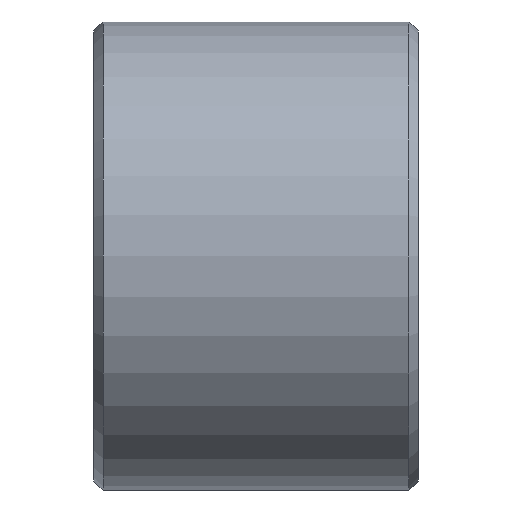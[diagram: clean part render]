
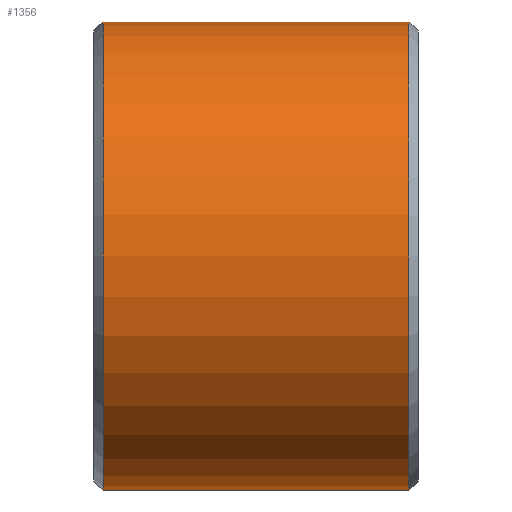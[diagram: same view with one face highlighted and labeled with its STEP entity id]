
A CAD part, front view. The second image highlights one B-rep face of the part: STEP entity #1356.
In plain terms, the highlighted cylindrical face has radius 13 mm (diameter 26 mm), a partial arc.
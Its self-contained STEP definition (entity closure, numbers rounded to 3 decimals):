
#92=DIRECTION('',(1.,0.,0.));
#93=VECTOR('',#92,17.);
#94=CARTESIAN_POINT('',(-8.5,0.,-13.));
#95=LINE('',#94,#93);
#143=CARTESIAN_POINT('',(8.5,0.,0.));
#144=DIRECTION('',(1.,0.,0.));
#145=DIRECTION('',(0.,0.,1.));
#146=AXIS2_PLACEMENT_3D('',#143,#144,#145);
#148=CARTESIAN_POINT('',(-8.5,0.,0.));
#149=DIRECTION('',(-1.,0.,0.));
#150=DIRECTION('',(0.,0.,-1.));
#151=AXIS2_PLACEMENT_3D('',#148,#149,#150);
#153=DIRECTION('',(1.,0.,0.));
#154=VECTOR('',#153,17.);
#155=CARTESIAN_POINT('',(-8.5,0.,
13.));
#156=LINE('',#155,#154);
#1215=CARTESIAN_POINT('',(8.5,0.,13.));
#1216=CARTESIAN_POINT('',(8.5,0.,-13.));
#1217=VERTEX_POINT('',#1215);
#1218=VERTEX_POINT('',#1216);
#1223=CARTESIAN_POINT('',(-8.5,0.,-13.));
#1224=CARTESIAN_POINT('',(-8.5,0.,13.));
#1225=VERTEX_POINT('',#1223);
#1226=VERTEX_POINT('',#1224);
#1345=CARTESIAN_POINT('',(-9.,0.,0.));
#1346=DIRECTION('',(1.,0.,0.));
#1347=DIRECTION('',(0.,0.,-1.));
#1348=AXIS2_PLACEMENT_3D('',#1345,#1346,#1347);
#1349=CYLINDRICAL_SURFACE('',#1348,13.);
#1350=ORIENTED_EDGE('',*,*,#1339,.T.);
#1351=ORIENTED_EDGE('',*,*,#1289,.F.);
#1352=ORIENTED_EDGE('',*,*,#1259,.T.);
#1353=ORIENTED_EDGE('',*,*,#1286,.T.);
#1354=EDGE_LOOP('',(#1350,#1351,#1352,#1353));
#1355=FACE_OUTER_BOUND('',#1354,.F.);
#1356=ADVANCED_FACE('',(#1355),#1349,.T.);
#147=CIRCLE('',#146,13.);
#152=CIRCLE('',#151,13.);
#1259=EDGE_CURVE('',#1225,#1226,#152,.T.);
#1286=EDGE_CURVE('',#1226,#1217,#156,.T.);
#1289=EDGE_CURVE('',#1225,#1218,#95,.T.);
#1339=EDGE_CURVE('',#1217,#1218,#147,.T.);
